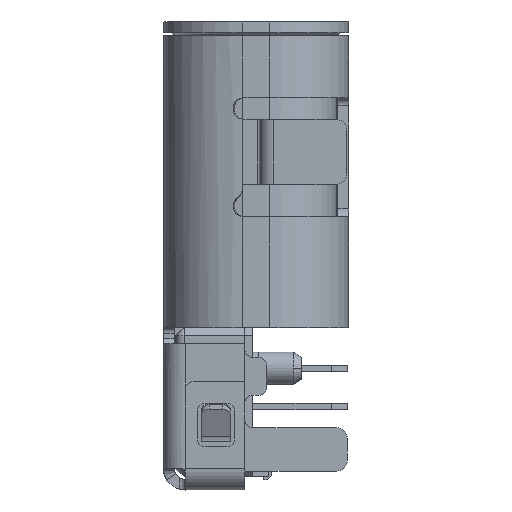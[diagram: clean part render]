
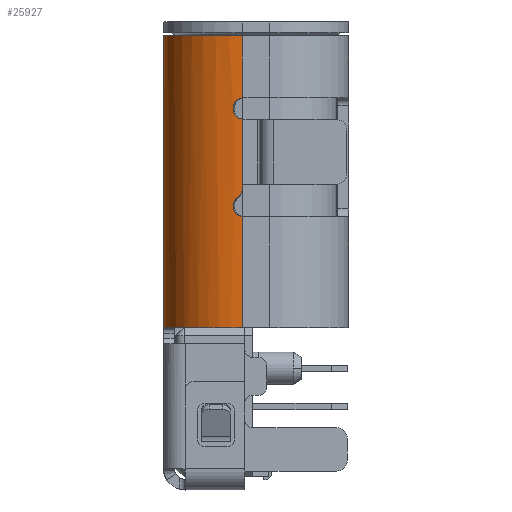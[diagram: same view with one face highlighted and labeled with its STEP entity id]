
A CAD part, left-side view. The second image highlights one B-rep face of the part: STEP entity #25927.
In plain terms, the highlighted cylindrical face has radius 1.46 mm (diameter 2.92 mm), a partial arc.
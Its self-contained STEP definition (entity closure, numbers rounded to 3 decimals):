
#3297=CARTESIAN_POINT('',(-3.14,0.54,-3.15));
#3298=DIRECTION('',(0.,0.,1.));
#3299=DIRECTION('',(-0.74,0.673,0.));
#3300=AXIS2_PLACEMENT_3D('',#3297,#3298,#3299);
#3379=CARTESIAN_POINT('',(-4.6,0.54,
-1.098));
#3380=CARTESIAN_POINT('',(-4.6,0.56,
-1.096));
#3381=CARTESIAN_POINT('',(-4.599,0.599,
-1.084));
#3382=CARTESIAN_POINT('',(-4.596,0.65,
-1.051));
#3383=CARTESIAN_POINT('',(-4.593,0.689,
-1.004));
#3384=CARTESIAN_POINT('',(-4.59,0.711,
-0.947));
#3385=CARTESIAN_POINT('',(-4.589,0.716,
-0.886));
#3386=CARTESIAN_POINT('',(-4.591,0.703,
-0.827));
#3387=CARTESIAN_POINT('',(-4.594,0.673,
-0.774));
#3388=CARTESIAN_POINT('',(-4.596,0.644,
-0.747));
#3389=CARTESIAN_POINT('',(-4.597,0.627,
-0.735));
#3391=CARTESIAN_POINT('',(-4.597,0.627,
-0.735));
#3392=CARTESIAN_POINT('',(-4.598,0.614,
-0.726));
#3393=CARTESIAN_POINT('',(-4.599,0.59,-0.705));
#3394=CARTESIAN_POINT('',(-4.6,0.561,
-0.664));
#3395=CARTESIAN_POINT('',(-4.6,0.544,
-0.617));
#3396=CARTESIAN_POINT('',(-4.6,0.54,
-0.585));
#3397=CARTESIAN_POINT('',(-4.6,0.54,
-0.569));
#3406=DIRECTION('',(0.,0.,-1.));
#3407=VECTOR('',#3406,0.85);
#3408=CARTESIAN_POINT('',(-4.6,0.54,2.25));
#3409=LINE('',#3408,#3407);
#3410=DIRECTION('',(0.,0.,1.));
#3411=VECTOR('',#3410,4.65);
#3412=CARTESIAN_POINT('',(-3.14,2.,
-3.25));
#3413=LINE('',#3412,#3411);
#3414=DIRECTION('',(0.,0.,1.));
#3415=VECTOR('',#3414,0.85);
#3416=CARTESIAN_POINT('',(-3.14,2.,1.4));
#3417=LINE('',#3416,#3415);
#3422=DIRECTION('',(0.,0.,1.));
#3423=VECTOR('',#3422,0.302);
#3424=CARTESIAN_POINT('',(-4.6,0.54,1.098));
#3425=LINE('',#3424,#3423);
#4013=CARTESIAN_POINT('',(-3.14,0.54,-3.15));
#4014=DIRECTION('',(0.,0.,1.));
#4015=DIRECTION('',(-0.673,0.74,0.));
#4016=AXIS2_PLACEMENT_3D('',#4013,#4014,#4015);
#4647=CARTESIAN_POINT('',(-3.14,0.54,-3.15));
#4648=DIRECTION('',(0.,0.,1.));
#4649=DIRECTION('',(-0.068,0.998,0.));
#4650=AXIS2_PLACEMENT_3D('',#4647,#4648,#4649);
#4674=CARTESIAN_POINT('',(-3.14,2.,
-3.25));
#4675=CARTESIAN_POINT('',(-3.14,2.,
-3.239));
#4676=CARTESIAN_POINT('',(-3.143,2.,
-3.218));
#4677=CARTESIAN_POINT('',(-3.158,2.,
-3.19));
#4678=CARTESIAN_POINT('',(-3.18,2.,
-3.168));
#4679=CARTESIAN_POINT('',(-3.209,1.998,
-3.153));
#4680=CARTESIAN_POINT('',(-3.23,1.997,
-3.15));
#4681=CARTESIAN_POINT('',(-3.24,1.997,-3.15));
#8803=CARTESIAN_POINT('',(-3.14,0.54,2.25));
#8804=DIRECTION('',(0.,0.,-1.));
#8805=DIRECTION('',(-1.,0.,0.));
#8806=AXIS2_PLACEMENT_3D('',#8803,#8804,#8805);
#9796=DIRECTION('',(0.,0.,1.));
#9797=VECTOR('',#9796,0.069);
#9798=CARTESIAN_POINT('',(-4.6,0.54,
-0.569));
#9799=LINE('',#9798,#9797);
#9870=DIRECTION('',(0.,0.,1.));
#9871=VECTOR('',#9870,1.202);
#9872=CARTESIAN_POINT('',(-4.6,0.54,-0.5));
#9873=LINE('',#9872,#9871);
#9874=CARTESIAN_POINT('',(-4.6,0.54,0.702));
#9875=CARTESIAN_POINT('',(-4.6,0.559,
0.704));
#9876=CARTESIAN_POINT('',(-4.599,0.597,
0.715));
#9877=CARTESIAN_POINT('',(-4.596,0.646,
0.746));
#9878=CARTESIAN_POINT('',(-4.593,0.684,
0.789));
#9879=CARTESIAN_POINT('',(-4.59,0.708,
0.842));
#9880=CARTESIAN_POINT('',(-4.59,0.714,
0.881));
#9881=CARTESIAN_POINT('',(-4.59,0.714,
0.9));
#9910=CARTESIAN_POINT('',(-4.59,0.714,
0.9));
#9911=CARTESIAN_POINT('',(-4.59,0.714,
0.919));
#9912=CARTESIAN_POINT('',(-4.59,0.708,
0.958));
#9913=CARTESIAN_POINT('',(-4.593,0.684,
1.011));
#9914=CARTESIAN_POINT('',(-4.596,0.646,
1.054));
#9915=CARTESIAN_POINT('',(-4.599,0.596,
1.085));
#9916=CARTESIAN_POINT('',(-4.6,0.559,
1.096));
#9917=CARTESIAN_POINT('',(-4.6,0.54,1.098));
#9919=CARTESIAN_POINT('',(-4.6,0.54,1.098));
#10048=DIRECTION('',(0.,0.,1.));
#10049=VECTOR('',#10048,2.052);
#10050=CARTESIAN_POINT('',(-4.6,0.54,-3.15));
#10051=LINE('',#10050,#10049);
#16203=CARTESIAN_POINT('',(-4.6,0.54,2.25));
#16205=VERTEX_POINT('',#16203);
#16214=CARTESIAN_POINT('',(-3.14,2.,2.25));
#16215=VERTEX_POINT('',#16214);
#18290=CARTESIAN_POINT('',(-4.122,1.62,
-3.15));
#18292=VERTEX_POINT('',#18290);
#18411=CARTESIAN_POINT('',(-4.22,1.522,
-3.15));
#18413=VERTEX_POINT('',#18411);
#18414=VERTEX_POINT('',#3391);
#18415=VERTEX_POINT('',#3397);
#18416=VERTEX_POINT('',#9919);
#18500=CARTESIAN_POINT('',(-3.14,2.,
-3.25));
#18501=VERTEX_POINT('',#18500);
#18502=VERTEX_POINT('',#4681);
#18665=CARTESIAN_POINT('',(-4.6,0.54,-3.15));
#18666=VERTEX_POINT('',#18665);
#18681=VERTEX_POINT('',#3379);
#18683=CARTESIAN_POINT('',(-4.6,0.54,-0.5));
#18684=VERTEX_POINT('',#18683);
#18721=CARTESIAN_POINT('',(-4.6,0.54,0.702));
#18722=VERTEX_POINT('',#18721);
#18723=VERTEX_POINT('',#9881);
#20937=CARTESIAN_POINT('',(-4.6,0.54,1.4));
#20938=VERTEX_POINT('',#20937);
#20939=CARTESIAN_POINT('',(-3.14,2.,1.4));
#20940=VERTEX_POINT('',#20939);
#25891=CARTESIAN_POINT('',(-3.14,0.54,1.38));
#25892=DIRECTION('',(0.,0.,1.));
#25893=DIRECTION('',(0.,1.,0.));
#25894=AXIS2_PLACEMENT_3D('',#25891,#25892,#25893);
#25895=CYLINDRICAL_SURFACE('',#25894,1.46);
#25897=ORIENTED_EDGE('',*,*,#25896,.T.);
#25899=ORIENTED_EDGE('',*,*,#25898,.F.);
#25901=ORIENTED_EDGE('',*,*,#25900,.F.);
#25903=ORIENTED_EDGE('',*,*,#25902,.F.);
#25905=ORIENTED_EDGE('',*,*,#25904,.F.);
#25907=ORIENTED_EDGE('',*,*,#25906,.F.);
#25908=ORIENTED_EDGE('',*,*,#25881,.F.);
#25909=ORIENTED_EDGE('',*,*,#25851,.F.);
#25911=ORIENTED_EDGE('',*,*,#25910,.F.);
#25912=ORIENTED_EDGE('',*,*,#25776,.F.);
#25914=ORIENTED_EDGE('',*,*,#25913,.F.);
#25916=ORIENTED_EDGE('',*,*,#25915,.F.);
#25918=ORIENTED_EDGE('',*,*,#25917,.F.);
#25920=ORIENTED_EDGE('',*,*,#25919,.T.);
#25922=ORIENTED_EDGE('',*,*,#25921,.T.);
#25924=ORIENTED_EDGE('',*,*,#25923,.F.);
#25925=EDGE_LOOP('',(#25897,#25899,#25901,#25903,#25905,#25907,#25908,#25909,
#25911,#25912,#25914,#25916,#25918,#25920,#25922,#25924));
#25926=FACE_OUTER_BOUND('',#25925,.F.);
#3301=CIRCLE('',#3300,1.46);
#3390=B_SPLINE_CURVE_WITH_KNOTS('',3,(#3379,#3380,#3381,#3382,#3383,#3384,#3385,
#3386,#3387,#3388,#3389),.UNSPECIFIED.,.F.,.F.,(4,1,1,1,1,1,1,1,4),(0.,
0.125,0.25,0.375,0.5,0.625,0.75,0.875,1.),.UNSPECIFIED.);
#3398=B_SPLINE_CURVE_WITH_KNOTS('',3,(#3391,#3392,#3393,#3394,#3395,#3396,
#3397),.UNSPECIFIED.,.F.,.F.,(4,1,1,1,4),(0.,0.25,0.5,0.75,1.),
.UNSPECIFIED.);
#4017=CIRCLE('',#4016,1.46);
#4651=CIRCLE('',#4650,1.46);
#4682=B_SPLINE_CURVE_WITH_KNOTS('',3,(#4674,#4675,#4676,#4677,#4678,#4679,#4680,
#4681),.UNSPECIFIED.,.F.,.F.,(4,1,1,1,1,4),(0.,0.2,0.4,0.6,0.8,1.),
.UNSPECIFIED.);
#8807=CIRCLE('',#8806,1.46);
#9882=B_SPLINE_CURVE_WITH_KNOTS('',3,(#9874,#9875,#9876,#9877,#9878,#9879,#9880,
#9881),.UNSPECIFIED.,.F.,.F.,(4,1,1,1,1,4),(0.,0.2,0.4,0.6,0.8,1.),
.UNSPECIFIED.);
#9918=B_SPLINE_CURVE_WITH_KNOTS('',3,(#9910,#9911,#9912,#9913,#9914,#9915,#9916,
#9917),.UNSPECIFIED.,.F.,.F.,(4,1,1,1,1,4),(0.,0.2,0.4,0.6,0.8,1.),
.UNSPECIFIED.);
#25776=EDGE_CURVE('',#18413,#18666,#3301,.T.);
#25851=EDGE_CURVE('',#18681,#18414,#3390,.T.);
#25881=EDGE_CURVE('',#18414,#18415,#3398,.T.);
#25896=EDGE_CURVE('',#16205,#20938,#3409,.T.);
#25898=EDGE_CURVE('',#18416,#20938,#3425,.T.);
#25900=EDGE_CURVE('',#18723,#18416,#9918,.T.);
#25902=EDGE_CURVE('',#18722,#18723,#9882,.T.);
#25904=EDGE_CURVE('',#18684,#18722,#9873,.T.);
#25906=EDGE_CURVE('',#18415,#18684,#9799,.T.);
#25910=EDGE_CURVE('',#18666,#18681,#10051,.T.);
#25913=EDGE_CURVE('',#18292,#18413,#4017,.T.);
#25915=EDGE_CURVE('',#18502,#18292,#4651,.T.);
#25917=EDGE_CURVE('',#18501,#18502,#4682,.T.);
#25919=EDGE_CURVE('',#18501,#20940,#3413,.T.);
#25921=EDGE_CURVE('',#20940,#16215,#3417,.T.);
#25923=EDGE_CURVE('',#16205,#16215,#8807,.T.);
#25927=ADVANCED_FACE('',(#25926),#25895,.T.);
